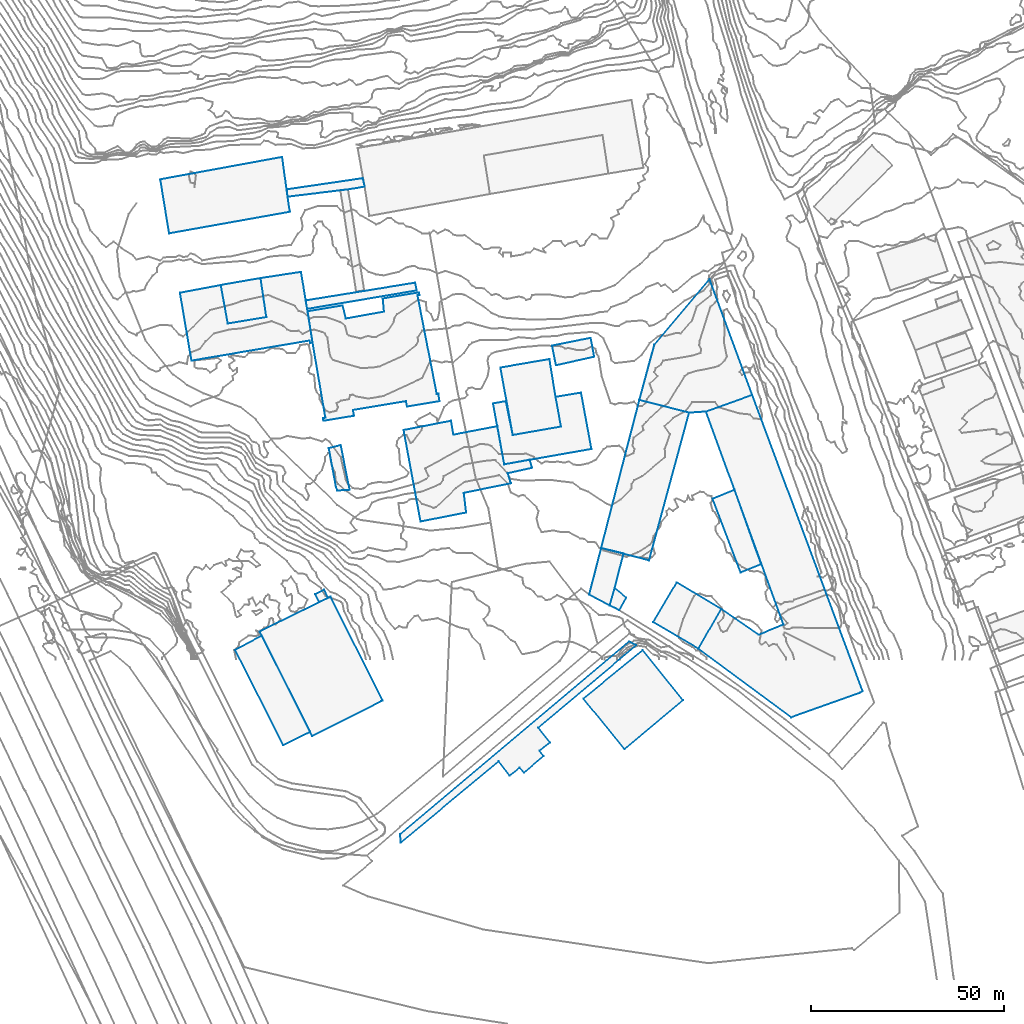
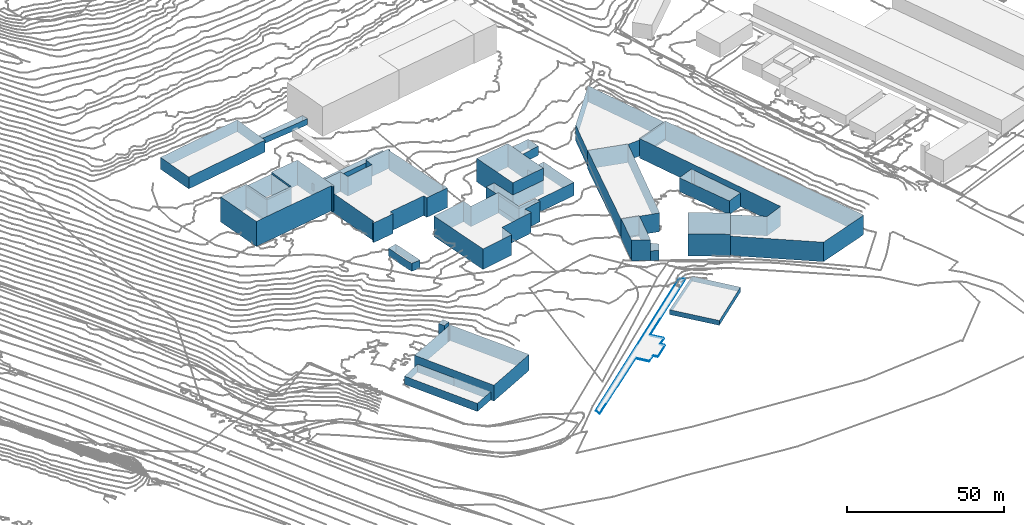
# Not in any storey, part 26 of 419: 23 walls.
"""IFC2X3 model written with IfcOpenShell, lengths in metres."""

from ifc_helpers import new_model, si_unit, frame, origin_with_axes, place, context, subcontext, project, faceted_brep, element, save


model = new_model("IFC2X3")

# Units and contexts
model_context = context("Model", 3, precision=1e-05, world=origin_with_axes())
body_context = subcontext(model_context, "Body", "Model", "MODEL_VIEW")
ifc_project = project(units=[si_unit("AREAUNIT", "SQUARE_METRE"), si_unit("LENGTHUNIT", "METRE")], contexts=[model_context])

# Walls
wall_1_placement = place(None, frame((180.3920204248, 88.6976909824, 21.1200008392), z_axis=(0.0, 0.0, 1.0), x_axis=(1.0, 0.0, 0.0)))
element("IfcWall", 1, at=wall_1_placement, Name="Mur 0", context=body_context, shape_type="Brep", body=[
    faceted_brep([(4.6, -27.5999999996, 7.6799991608), (1.2999999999, -8.0999999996, 7.6799991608), (4.6, -27.5999999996, 0.0), (1.2999999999, -8.0999999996, 0.0), (4.0, -27.7000000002, 7.6799991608), (4.0, -27.7000000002, 0.0), (4.1, -28.3999999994, 7.6799991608), (4.1, -28.3999999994, 0.0), (12.0, -27.0999999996, 7.6799991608), (12.0, -27.0999999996, 0.0), (11.7999999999, -25.5999999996, 7.6799991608), (11.7999999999, -25.5999999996, 0.0), (25.5, -23.2999999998, 7.6799991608), (25.5, -23.2999999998, 0.0), (25.7999999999, -24.7000000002, 7.6799991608), (25.7999999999, -24.7000000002, 0.0), (34.2, -23.2999999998, 7.6799991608), (34.2, -23.2999999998, 0.0), (33.8999999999, -21.3999999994, 7.6799991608), (33.8999999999, -21.3999999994, 0.0), (33.5, -21.5, 7.6799991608), (33.5, -21.5, 0.0), (28.5, 4.2000000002, 7.6799991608), (28.5, 4.2000000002, 0.0), (29.0, 4.2000000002, 7.6799991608), (29.0, 4.2000000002, 0.0), (28.8999999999, 4.9000000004, 7.6799991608), (28.8999999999, 4.9000000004, 0.0), (19.5, 3.2999999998, 7.6799991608), (19.5, 3.2999999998, 0.0), (19.7999999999, -0.0999999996, 7.6799991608), (19.7999999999, -0.0999999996, 0.0), (9.8999999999, -1.8999999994, 7.6799991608), (9.8999999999, -1.8999999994, 0.0), (9.1, 1.5, 7.6799991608), (9.1, 1.5, 0.0), (0.0, 0.0, 7.6799991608), (0.0, 0.0, 0.0)], [[[0, 1, 2]], [[2, 1, 3]], [[4, 0, 5]], [[5, 0, 2]], [[6, 4, 7]], [[7, 4, 5]], [[8, 6, 9]], [[9, 6, 7]], [[10, 8, 11]], [[11, 8, 9]], [[12, 10, 13]], [[13, 10, 11]], [[14, 12, 15]], [[15, 12, 13]], [[16, 14, 17]], [[17, 14, 15]], [[18, 16, 19]], [[19, 16, 17]], [[20, 18, 21]], [[21, 18, 19]], [[22, 20, 23]], [[23, 20, 21]], [[24, 22, 25]], [[25, 22, 23]], [[26, 24, 27]], [[27, 24, 25]], [[28, 26, 29]], [[29, 26, 27]], [[30, 28, 31]], [[31, 28, 29]], [[32, 30, 33]], [[33, 30, 31]], [[34, 32, 35]], [[35, 32, 33]], [[1, 36, 3]], [[3, 36, 37]], [[36, 34, 37]], [[37, 34, 35]]]),
])
wall_2_placement = place(None, frame((258.6920204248, 12.3976909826, 17.0899996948), z_axis=(0.0, 0.0, 1.0), x_axis=(1.0, 0.0, 0.0)))
element("IfcWall", 2, at=wall_2_placement, Name="Mur 0", context=body_context, shape_type="Brep", body=[
    faceted_brep([(4.3, 2.0, 3.9100003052), (2.5, -1.2000000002, 3.9100003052), (4.3, 2.0, 0.0), (2.5, -1.2000000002, 0.0), (1.3, 4.5, 3.9100003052), (1.3, 4.5, 0.0), (0.0, 0.0, 3.9100003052), (0.0, 0.0, 0.0)], [[[0, 1, 2]], [[2, 1, 3]], [[4, 0, 5]], [[5, 0, 2]], [[1, 6, 3]], [[3, 6, 7]], [[6, 4, 7]], [[7, 4, 5]]]),
])
wall_3_placement = place(None, frame((182.3920204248, 15.2976909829, 10.0691999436), z_axis=(0.0, 0.0, 1.0), x_axis=(1.0, 0.0, 0.0)))
element("IfcWall", 3, at=wall_3_placement, Name="Mur 0", context=body_context, shape_type="Brep", body=[
    faceted_brep([(2.2999999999, 1.1999999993, 7.6308000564), (3.2999999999, -0.9000000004, 7.6308000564), (2.2999999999, 1.1999999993, 0.0), (3.2999999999, -0.9000000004, 0.0), (0.0, 0.0, 7.6308000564), (0.0, 0.0, 0.0), (1.0, -2.0, 7.6308000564), (1.0, -2.0, 0.0)], [[[0, 1, 2]], [[2, 1, 3]], [[4, 0, 5]], [[5, 0, 2]], [[1, 6, 3]], [[3, 6, 7]], [[6, 4, 7]], [[7, 4, 5]]]),
])
wall_4_placement = place(None, frame((174.9920204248, 120.2976909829, 26.5487995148), z_axis=(0.0, 0.0, 1.0), x_axis=(1.0, 0.0, 0.0)))
element("IfcWall", 4, at=wall_4_placement, Name="Mur 0", context=body_context, shape_type="Brep", body=[
    faceted_brep([(20.2, 0.6999999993, 2.3512004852), (15.9, 0.0, 2.3512004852), (20.2, 0.6999999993, 0.0), (15.9, 0.0, 0.0), (19.7, 2.8999999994, 2.3512004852), (19.7, 2.8999999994, 0.0), (0.0, 0.0, 2.3512004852), (0.0, 0.0, 0.0), (0.2, -1.9000000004, 2.3512004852), (0.2, -1.9000000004, 0.0)], [[[0, 1, 2]], [[2, 1, 3]], [[4, 0, 5]], [[5, 0, 2]], [[6, 4, 7]], [[7, 4, 5]], [[1, 8, 3]], [[3, 8, 9]], [[8, 6, 9]], [[9, 6, 7]]]),
])
wall_5_placement = place(None, frame((157.8920204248, 95.4976909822, 23.1267998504), z_axis=(0.0, 0.0, 1.0), x_axis=(1.0, 0.0, 0.0)))
element("IfcWall", 5, at=wall_5_placement, Name="Mur 0", context=body_context, shape_type="Brep", body=[
    faceted_brep([(1.7999999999, -10.0, 7.9732001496), (0.0, 0.0, 7.9732001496), (1.7999999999, -10.0, 0.0), (0.0, 0.0, 0.0), (11.7999999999, -8.2999999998, 7.9732001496), (11.7999999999, -8.2999999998, 0.0), (10.2999999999, 1.8000000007, 7.9732001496), (10.2999999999, 1.8000000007, 0.0)], [[[0, 1, 2]], [[2, 1, 3]], [[4, 0, 5]], [[5, 0, 2]], [[1, 6, 3]], [[3, 6, 7]], [[6, 4, 7]], [[7, 4, 5]]]),
])
wall_6_placement = place(None, frame((230.3920204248, 74.0976909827, 20.3390001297), z_axis=(0.0, 0.0, 1.0), x_axis=(1.0, 0.0, 0.0)))
element("IfcWall", 6, at=wall_6_placement, Name="Mur 0", context=body_context, shape_type="Brep", body=[
    faceted_brep([(12.7, 2.2000000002, 9.1609998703), (14.2999999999, -7.6000000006, 9.1609998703), (12.7, 2.2000000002, 0.0), (14.2999999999, -7.6000000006, 0.0), (0.0, 0.0, 9.1609998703), (0.0, 0.0, 0.0), (3.2, -17.5, 9.1609998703), (3.2, -17.5, 0.0), (15.7, -15.2999999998, 9.1609998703), (15.7, -15.2999999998, 0.0)], [[[0, 1, 2]], [[2, 1, 3]], [[4, 0, 5]], [[5, 0, 2]], [[6, 4, 7]], [[7, 4, 5]], [[1, 8, 3]], [[3, 8, 9]], [[8, 6, 9]], [[9, 6, 7]]]),
])
wall_7_placement = place(None, frame((161.5920204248, 0.8976909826, 10.0303997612), z_axis=(0.0, 0.0, 1.0), x_axis=(1.0, 0.0, 0.0)))
element("IfcWall", 7, at=wall_7_placement, Name="Mur 0", context=body_context, shape_type="Brep", body=[
    faceted_brep([(6.9, 3.7000000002, 3.1696002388), (19.5, -21.2000000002, 3.1696002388), (6.9, 3.7000000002, 0.0), (19.5, -21.2000000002, 0.0), (0.0, 0.0, 3.1696002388), (0.0, 0.0, 0.0), (12.5, -24.7000000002, 3.1696002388), (12.5, -24.7000000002, 0.0)], [[[0, 1, 2]], [[2, 1, 3]], [[4, 0, 5]], [[5, 0, 2]], [[1, 6, 3]], [[3, 6, 7]], [[6, 4, 7]], [[7, 4, 5]]]),
])
wall_8_placement = place(None, frame((266.3920204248, 65.6976909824, 18.6400001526), z_axis=(0.0, 0.0, 1.0), x_axis=(1.0, 0.0, 0.0)))
element("IfcWall", 8, at=wall_8_placement, Name="Mur 0", context=body_context, shape_type="Brep", body=[
    faceted_brep([(12.8999999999, -3.2999999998, 6.2599998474), (0.0, 0.0, 6.2599998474), (12.8999999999, -3.2999999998, 0.0), (0.0, 0.0, 0.0), (17.2999999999, -3.0, 6.2599998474), (17.2999999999, -3.0, 0.0), (29.2999999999, 1.2999999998, 6.2599998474), (29.2999999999, 1.2999999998, 0.0), (18.2, 31.2999999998, 6.2599998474), (18.2, 31.2999999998, 0.0), (3.8999999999, 14.4000000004, 6.2599998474), (3.8999999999, 14.4000000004, 0.0)], [[[0, 1, 2]], [[2, 1, 3]], [[4, 0, 5]], [[5, 0, 2]], [[6, 4, 7]], [[7, 4, 5]], [[8, 6, 9]], [[9, 6, 7]], [[1, 10, 3]], [[3, 10, 11]], [[10, 8, 11]], [[11, 8, 9]]]),
])
wall_9_placement = place(None, frame((269.9920204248, 8.0976909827, 17.6167998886), z_axis=(0.0, 0.0, 1.0), x_axis=(1.0, 0.0, 0.0)))
element("IfcWall", 9, at=wall_9_placement, Name="Mur 0", context=body_context, shape_type="Brep", body=[
    faceted_brep([(17.6, 3.3999999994, 8.5832001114), (11.7, -6.9000000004, 8.5832001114), (17.6, 3.3999999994, 0.0), (11.7, -6.9000000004, 0.0), (6.1, 10.2999999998, 8.5832001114), (6.1, 10.2999999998, 0.0), (0.0, 0.0, 8.5832001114), (0.0, 0.0, 0.0)], [[[0, 1, 2]], [[2, 1, 3]], [[4, 0, 5]], [[5, 0, 2]], [[1, 6, 3]], [[3, 6, 7]], [[6, 4, 7]], [[7, 4, 5]]]),
])
wall_10_placement = place(None, frame((256.4920204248, 27.2976909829, 17.81629982), z_axis=(0.0, 0.0, 1.0), x_axis=(1.0, 0.0, 0.0)))
element("IfcWall", 10, at=wall_10_placement, Name="Mur 0", context=body_context, shape_type="Brep", body=[
    faceted_brep([(12.4, -3.2000000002, 7.28370018), (0.0, 0.0, 7.28370018), (12.4, -3.2000000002, 0.0), (0.0, 0.0, 0.0), (22.7999999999, 35.0999999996, 7.28370018), (22.7999999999, 35.0999999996, 0.0), (9.9, 38.3999999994, 7.28370018), (9.9, 38.3999999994, 0.0)], [[[0, 1, 2]], [[2, 1, 3]], [[4, 0, 5]], [[5, 0, 2]], [[1, 6, 3]], [[3, 6, 7]], [[6, 4, 7]], [[7, 4, 5]]]),
])
wall_11_placement = place(None, frame((285.3920204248, 40.0976909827, 17.896000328), z_axis=(0.0, 0.0, 1.0), x_axis=(1.0, 0.0, 0.0)))
element("IfcWall", 11, at=wall_11_placement, Name="Mur 0", context=body_context, shape_type="Brep", body=[
    faceted_brep([(0.0, 0.0, 5.403999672), (5.7, 2.2999999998, 5.403999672), (0.0, 0.0, 0.0), (5.7, 2.2999999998, 0.0), (7.2999999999, -19.1000000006, 5.403999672), (7.2999999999, -19.1000000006, 0.0), (12.6, -17.0, 5.403999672), (12.6, -17.0, 0.0)], [[[0, 1, 2]], [[2, 1, 3]], [[4, 0, 5]], [[5, 0, 2]], [[1, 6, 3]], [[3, 6, 7]], [[6, 4, 7]], [[7, 4, 5]]]),
])
wall_12_placement = place(None, frame((253.3920204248, 15.1976909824, 17.2552001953), z_axis=(0.0, 0.0, 1.0), x_axis=(1.0, 0.0, 0.0)))
element("IfcWall", 12, at=wall_12_placement, Name="Mur 0", context=body_context, shape_type="Brep", body=[
    faceted_brep([(8.8999999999, 10.7000000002, 8.0447998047), (6.6, 1.7000000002, 8.0447998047), (8.8999999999, 10.7000000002, 0.0), (6.6, 1.7000000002, 0.0), (3.1, 12.1000000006, 8.0447998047), (3.1, 12.1000000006, 0.0), (0.0, 0.0, 8.0447998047), (0.0, 0.0, 0.0), (5.2999999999, -2.7999999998, 8.0447998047), (5.2999999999, -2.7999999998, 0.0)], [[[0, 1, 2]], [[2, 1, 3]], [[4, 0, 5]], [[5, 0, 2]], [[6, 4, 7]], [[7, 4, 5]], [[1, 8, 3]], [[3, 8, 9]], [[8, 6, 9]], [[9, 6, 7]]]),
])
wall_13_placement = place(None, frame((251.8920204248, -11.7023090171, 13.2014000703), z_axis=(0.0, 0.0, 1.0), x_axis=(1.0, 0.0, 0.0)))
element("IfcWall", 13, at=wall_13_placement, Name="Mur 0", context=body_context, shape_type="Brep", body=[
    faceted_brep([(25.7999999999, -0.4000000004, 1.8985999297), (10.7, -13.1000000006, 1.8985999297), (25.7999999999, -0.4000000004, 0.0), (10.7, -13.1000000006, 0.0), (15.3999999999, 12.5, 1.8985999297), (15.3999999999, 12.5, 0.0), (0.0, 0.0, 1.8985999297), (0.0, 0.0, 0.0)], [[[0, 1, 2]], [[2, 1, 3]], [[4, 0, 5]], [[5, 0, 2]], [[1, 6, 3]], [[3, 6, 7]], [[6, 4, 7]], [[7, 4, 5]]]),
])
wall_14_placement = place(None, frame((228.4920204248, 64.7976909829, 19.5300000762), z_axis=(0.0, 0.0, 1.0), x_axis=(1.0, 0.0, 0.0)))
element("IfcWall", 14, at=wall_14_placement, Name="Mur 0", context=body_context, shape_type="Brep", body=[
    faceted_brep([(17.6, -6.0, 5.1699999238), (16.2, 1.6999999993, 5.1699999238), (17.6, -6.0, 0.0), (16.2, 1.6999999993, 0.0), (5.1, -8.2000000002, 5.1699999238), (5.1, -8.2000000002, 0.0), (3.2999999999, 0.5999999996, 5.1699999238), (3.2999999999, 0.5999999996, 0.0), (0.0, 0.0, 5.1699999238), (0.0, 0.0, 0.0), (2.9, -15.8000000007, 5.1699999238), (2.9, -15.8000000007, 0.0), (25.5, -11.8000000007, 5.1699999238), (25.5, -11.8000000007, 0.0), (22.7999999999, 2.7999999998, 5.1699999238), (22.7999999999, 2.7999999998, 0.0)], [[[0, 1, 2]], [[2, 1, 3]], [[4, 0, 5]], [[5, 0, 2]], [[6, 4, 7]], [[7, 4, 5]], [[8, 6, 9]], [[9, 6, 7]], [[10, 8, 11]], [[11, 8, 9]], [[12, 10, 13]], [[13, 10, 11]], [[1, 14, 3]], [[3, 14, 15]], [[14, 12, 15]], [[15, 12, 13]]]),
])
wall_15_placement = place(None, frame((167.9920204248, 5.6976909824, 10.0228000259), z_axis=(0.0, 0.0, 1.0), x_axis=(1.0, 0.0, 0.0)))
element("IfcWall", 15, at=wall_15_placement, Name="Mur 0", context=body_context, shape_type="Brep", body=[
    faceted_brep([(31.9, -17.8999999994, 6.1771999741), (31.5, -18.0999999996, 6.1771999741), (31.9, -17.8999999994, 0.0), (31.5, -18.0999999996, 0.0), (18.2999999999, 9.0, 6.1771999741), (18.2999999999, 9.0, 0.0), (0.0, 0.0, 6.1771999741), (0.0, 0.0, 0.0), (13.6, -27.0999999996, 6.1771999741), (13.6, -27.0999999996, 0.0)], [[[0, 1, 2]], [[2, 1, 3]], [[4, 0, 5]], [[5, 0, 2]], [[6, 4, 7]], [[7, 4, 5]], [[1, 8, 3]], [[3, 8, 9]], [[8, 6, 9]], [[9, 6, 7]]]),
])
wall_16_placement = place(None, frame((243.7920204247, 79.7976909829, 20.529400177), z_axis=(0.0, 0.0, 1.0), x_axis=(1.0, 0.0, 0.0)))
element("IfcWall", 16, at=wall_16_placement, Name="Mur 0", context=body_context, shape_type="Brep", body=[
    faceted_brep([(1.0, -5.1000000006, 3.570599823), (0.0, 0.0, 3.570599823), (1.0, -5.1000000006, 0.0), (0.0, 0.0, 0.0), (10.9, -2.9000000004, 3.570599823), (10.9, -2.9000000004, 0.0), (10.0, 2.0, 3.570599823), (10.0, 2.0, 0.0)], [[[0, 1, 2]], [[2, 1, 3]], [[4, 0, 5]], [[5, 0, 2]], [[1, 6, 3]], [[3, 6, 7]], [[6, 4, 7]], [[7, 4, 5]]]),
])
wall_17_placement = place(None, frame((204.3920204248, -46.9023090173, 13.6460001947), z_axis=(0.0, 0.0, 1.0), x_axis=(1.0, 0.0, 0.0)))
element("IfcWall", 17, at=wall_17_placement, Name="Mur 0", context=body_context, shape_type="Brep", body=[
    faceted_brep([(59.2999999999, 50.0, 0.3539998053), (61.2, 49.0, 0.3539998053), (59.2999999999, 50.0, 0.0), (61.2, 49.0, 0.0), (0.0, 0.0, 0.3539998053), (0.0, 0.0, 0.0), (0.1, -2.2000000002, 0.3539998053), (0.1, -2.2000000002, 0.0), (25.5, 18.8999999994, 0.3539998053), (25.5, 18.8999999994, 0.0), (28.3999999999, 15.2000000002, 0.3539998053), (28.3999999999, 15.2000000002, 0.0), (31.0, 17.2999999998, 0.3539998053), (31.0, 17.2999999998, 0.0), (32.1, 16.0, 0.3539998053), (32.1, 16.0, 0.0), (37.2, 20.2999999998, 0.3539998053), (37.2, 20.2999999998, 0.0), (36.1, 21.7000000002, 0.3539998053), (36.1, 21.7000000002, 0.0), (38.8999999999, 23.7999999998, 0.3539998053), (38.8999999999, 23.7999999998, 0.0), (35.7999999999, 27.5999999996, 0.3539998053), (35.7999999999, 27.5999999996, 0.0)], [[[0, 1, 2]], [[2, 1, 3]], [[4, 0, 5]], [[5, 0, 2]], [[6, 4, 7]], [[7, 4, 5]], [[8, 6, 9]], [[9, 6, 7]], [[10, 8, 11]], [[11, 8, 9]], [[12, 10, 13]], [[13, 10, 11]], [[14, 12, 15]], [[15, 12, 13]], [[16, 14, 17]], [[17, 14, 15]], [[18, 16, 19]], [[19, 16, 17]], [[20, 18, 21]], [[21, 18, 19]], [[1, 22, 3]], [[3, 22, 23]], [[22, 20, 23]], [[23, 20, 21]]]),
])
wall_18_placement = place(None, frame((179.8920204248, 91.4976909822, 24.266900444), z_axis=(0.0, 0.0, 1.0), x_axis=(1.0, 0.0, 0.0)))
element("IfcWall", 18, at=wall_18_placement, Name="Mur 0", context=body_context, shape_type="Brep", body=[
    faceted_brep([(28.7999999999, 2.6000000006, 2.733099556), (0.3999999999, -2.1999999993, 2.733099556), (28.7999999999, 2.6000000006, 0.0), (0.3999999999, -2.1999999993, 0.0), (28.3999999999, 4.6000000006, 2.733099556), (28.3999999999, 4.6000000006, 0.0), (0.0, 0.0, 2.733099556), (0.0, 0.0, 0.0)], [[[0, 1, 2]], [[2, 1, 3]], [[4, 0, 5]], [[5, 0, 2]], [[1, 6, 3]], [[3, 6, 7]], [[6, 4, 7]], [[7, 4, 5]]]),
])
wall_19_placement = place(None, frame((142.1920204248, 122.8976909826, 26.5680005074), z_axis=(0.0, 0.0, 1.0), x_axis=(1.0, 0.0, 0.0)))
element("IfcWall", 19, at=wall_19_placement, Name="Mur 0", context=body_context, shape_type="Brep", body=[
    faceted_brep([(31.6, 5.7999999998, 4.6319994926), (33.0, -4.5, 4.6319994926), (31.6, 5.7999999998, 0.0), (33.0, -4.5, 0.0), (0.0, 0.0, 4.6319994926), (0.0, 0.0, 0.0), (2.3, -14.0, 4.6319994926), (2.3, -14.0, 0.0), (33.6, -8.4000000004, 4.6319994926), (33.6, -8.4000000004, 0.0)], [[[0, 1, 2]], [[2, 1, 3]], [[4, 0, 5]], [[5, 0, 2]], [[6, 4, 7]], [[7, 4, 5]], [[1, 8, 3]], [[3, 8, 9]], [[8, 6, 9]], [[9, 6, 7]]]),
])
wall_20_placement = place(None, frame((185.8920204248, 53.1976909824, 19.6990001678), z_axis=(0.0, 0.0, 1.0), x_axis=(1.0, 0.0, 0.0)))
element("IfcWall", 20, at=wall_20_placement, Name="Mur 0", context=body_context, shape_type="Brep", body=[
    faceted_brep([(2.2, -11.0, 3.1009998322), (1.7999999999, -9.7000000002, 3.1009998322), (2.2, -11.0, 0.0), (1.7999999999, -9.7000000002, 0.0), (5.3999999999, -10.7999999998, 3.1009998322), (5.3999999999, -10.7999999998, 0.0), (3.1, 0.7999999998, 3.1009998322), (3.1, 0.7999999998, 0.0), (0.0, 0.0, 3.1009998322), (0.0, 0.0, 0.0)], [[[0, 1, 2]], [[2, 1, 3]], [[4, 0, 5]], [[5, 0, 2]], [[6, 4, 7]], [[7, 4, 5]], [[1, 8, 3]], [[3, 8, 9]], [[8, 6, 9]], [[9, 6, 7]]]),
])
wall_21_placement = place(None, frame((205.2920204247, 57.8976909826, 17.6740001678), z_axis=(0.0, 0.0, 1.0), x_axis=(1.0, 0.0, 0.0)))
element("IfcWall", 21, at=wall_21_placement, Name="Mur 0", context=body_context, shape_type="Brep", body=[
    faceted_brep([(12.9, -1.2000000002, 8.0259998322), (24.3, 1.0, 8.0259998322), (12.9, -1.2000000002, 0.0), (24.3, 1.0, 0.0), (12.3, 2.4000000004, 8.0259998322), (12.3, 2.4000000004, 0.0), (0.0, 0.0, 8.0259998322), (0.0, 0.0, 0.0), (4.4, -23.7000000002, 8.0259998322), (4.4, -23.7000000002, 0.0), (16.2000000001, -21.4000000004, 8.0259998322), (16.2000000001, -21.4000000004, 0.0), (15.6000000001, -16.2999999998, 8.0259998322), (15.6000000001, -16.2999999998, 0.0), (27.8, -13.7999999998, 8.0259998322), (27.8, -13.7999999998, 0.0), (27.0, -11.2000000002, 8.0259998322), (27.0, -11.2000000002, 0.0), (33.3, -9.7999999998, 8.0259998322), (33.3, -9.7999999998, 0.0), (32.7000000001, -7.7000000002, 8.0259998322), (32.7000000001, -7.7000000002, 0.0), (26.1000000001, -8.9000000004, 8.0259998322), (26.1000000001, -8.9000000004, 0.0)], [[[0, 1, 2]], [[2, 1, 3]], [[4, 0, 5]], [[5, 0, 2]], [[6, 4, 7]], [[7, 4, 5]], [[8, 6, 9]], [[9, 6, 7]], [[10, 8, 11]], [[11, 8, 9]], [[12, 10, 13]], [[13, 10, 11]], [[14, 12, 15]], [[15, 12, 13]], [[16, 14, 17]], [[17, 14, 15]], [[18, 16, 19]], [[19, 16, 17]], [[20, 18, 21]], [[21, 18, 19]], [[1, 22, 3]], [[3, 22, 23]], [[22, 20, 23]], [[23, 20, 21]]]),
])
wall_22_placement = place(None, frame((147.2920204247, 93.4976909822, 22.1154997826), z_axis=(0.0, 0.0, 1.0), x_axis=(1.0, 0.0, 0.0)))
element("IfcWall", 22, at=wall_22_placement, Name="Mur 0", context=body_context, shape_type="Brep", body=[
    faceted_brep([(31.4, 5.4000000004, 9.7845002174), (34.4, -12.8999999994, 9.7845002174), (31.4, 5.4000000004, 0.0), (34.4, -12.8999999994, 0.0), (20.9, 3.8000000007, 9.7845002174), (20.9, 3.8000000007, 0.0), (22.4, -6.2999999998, 9.7845002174), (22.4, -6.2999999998, 0.0), (12.4, -8.0, 9.7845002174), (12.4, -8.0, 0.0), (10.6000000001, 2.0, 9.7845002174), (10.6000000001, 2.0, 0.0), (0.0, 0.0, 9.7845002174), (0.0, 0.0, 0.0), (3.0, -17.5999999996, 9.7845002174), (3.0, -17.5999999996, 0.0), (33.6000000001, -12.3999999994, 9.7845002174), (33.6000000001, -12.3999999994, 0.0), (33.8, -13.0, 9.7845002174), (33.8, -13.0, 0.0)], [[[0, 1, 2]], [[2, 1, 3]], [[4, 0, 5]], [[5, 0, 2]], [[6, 4, 7]], [[7, 4, 5]], [[8, 6, 9]], [[9, 6, 7]], [[10, 8, 11]], [[11, 8, 9]], [[12, 10, 13]], [[13, 10, 11]], [[14, 12, 15]], [[15, 12, 13]], [[16, 14, 17]], [[17, 14, 15]], [[1, 18, 3]], [[3, 18, 19]], [[18, 16, 19]], [[19, 16, 17]]]),
])
wall_23_placement = place(None, frame((281.6920204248, 1.1976909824, 17.9139993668), z_axis=(0.0, 0.0, 1.0), x_axis=(1.0, 0.0, 0.0)))
element("IfcWall", 23, at=wall_23_placement, Name="Mur 0", context=body_context, shape_type="Brep", body=[
    faceted_brep([(22.1, 6.2999999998, 7.5860006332), (2.0, 61.5, 7.5860006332), (22.1, 6.2999999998, 0.0), (2.0, 61.5, 0.0), (15.6, 3.6000000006, 7.5860006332), (15.6, 3.6000000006, 0.0), (5.9, 10.2999999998, 7.5860006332), (5.9, 10.2999999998, 0.0), (0.0, 0.0, 7.5860006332), (0.0, 0.0, 0.0), (24.0, -17.7999999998, 7.5860006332), (24.0, -17.7999999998, 0.0), (41.9, -11.3999999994, 7.5860006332), (41.9, -11.3999999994, 0.0), (42.6, -11.0, 7.5860006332), (42.6, -11.0, 0.0), (14.0, 65.7999999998, 7.5860006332), (14.0, 65.7999999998, 0.0)], [[[0, 1, 2]], [[2, 1, 3]], [[4, 0, 5]], [[5, 0, 2]], [[6, 4, 7]], [[7, 4, 5]], [[8, 6, 9]], [[9, 6, 7]], [[10, 8, 11]], [[11, 8, 9]], [[12, 10, 13]], [[13, 10, 11]], [[14, 12, 15]], [[15, 12, 13]], [[1, 16, 3]], [[3, 16, 17]], [[16, 14, 17]], [[17, 14, 15]]]),
])

save(model, "model.ifc")
